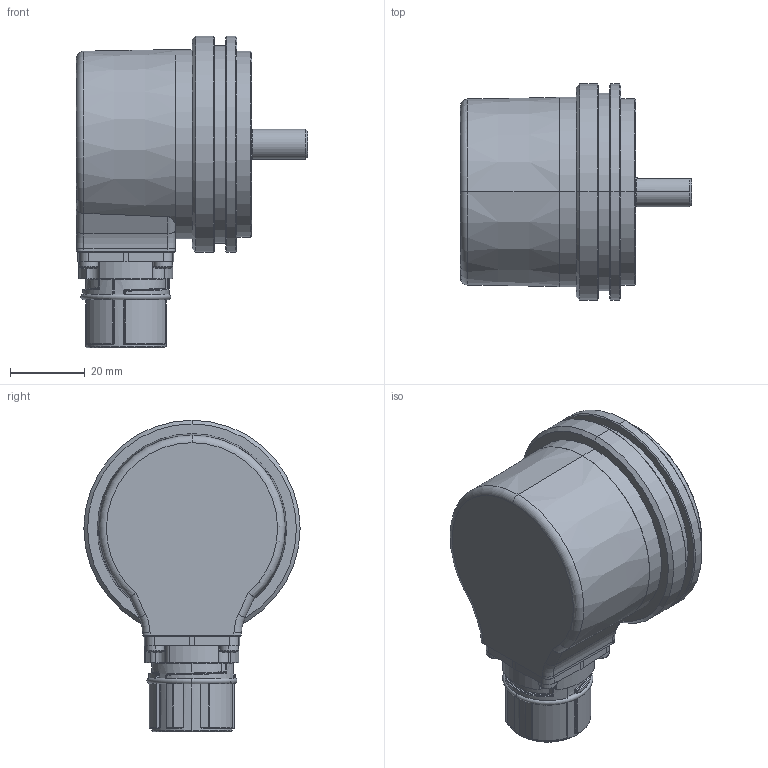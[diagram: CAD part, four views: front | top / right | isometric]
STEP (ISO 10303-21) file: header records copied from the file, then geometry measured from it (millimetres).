
FILE_DESCRIPTION (( 'STEP AP203' ), '1' );
FILE_NAME ('8.5000.B6X8.XXXX.STEP', '2017-04-05T08:10:11', ( '' ), ( '' ), 'SwSTEP 2.0', 'SolidWorks 2017', '' );
FILE_SCHEMA (( 'CONFIG_CONTROL_DESIGN' ));
Length unit declared in the file: millimetre
Products named in the file (1): 8.5000.B6X8.XXXX
Bounding box: 62 x 58 x 83.6 mm (x, y, z)
Volume: 69699.3 mm3; surface area: 42050.1 mm2
Topology: 24 solids, 24 shells, 1305 faces, 3082 edges, 1866 vertices
Faces by surface type: cylinder 475, plane 369, bspline 157, cone 152, torus 92, sphere 60
Entity records: 44432 total; most frequent: CARTESIAN_POINT 14912, DIRECTION 6317, ORIENTED_EDGE 5968, EDGE_CURVE 2984, AXIS2_PLACEMENT_3D 2553, VERTEX_POINT 1858, EDGE_LOOP 1504, CIRCLE 1404
